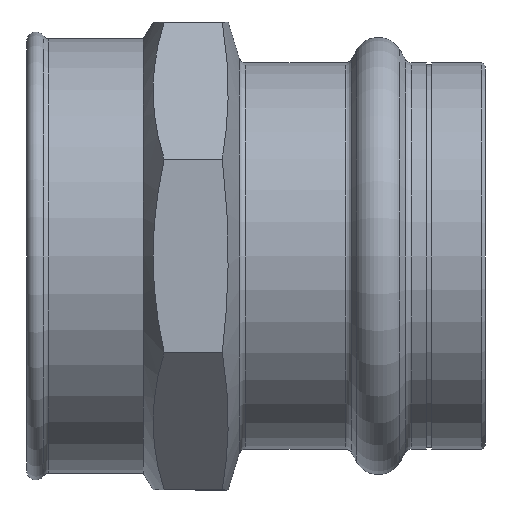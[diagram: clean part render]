
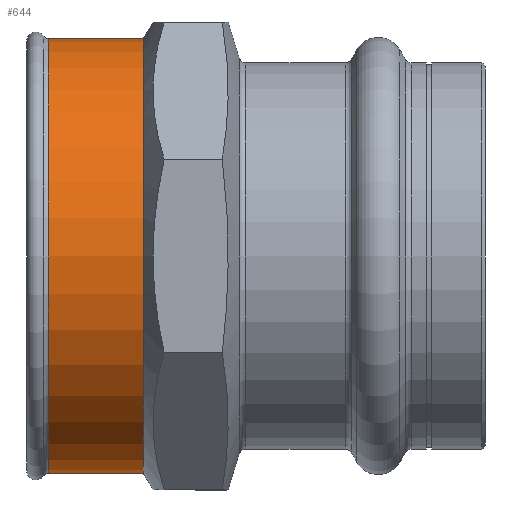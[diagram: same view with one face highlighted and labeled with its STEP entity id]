
A CAD part, left-side view. The second image highlights one B-rep face of the part: STEP entity #644.
In plain terms, the highlighted cylindrical face has radius 32.5 mm (diameter 65 mm), a partial arc.
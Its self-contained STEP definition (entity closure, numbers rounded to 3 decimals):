
#96 = VECTOR ( 'NONE', #655, 1000. ) ;
#262 = VERTEX_POINT ( 'NONE', #1376 ) ;
#329 = EDGE_CURVE ( 'NONE', #1226, #749, #1087, .T. ) ;
#449 = ORIENTED_EDGE ( 'NONE', *, *, #683, .T. ) ;
#455 = CARTESIAN_POINT ( 'NONE',  ( 0., 65.356, -32.5 ) ) ;
#494 = EDGE_LOOP ( 'NONE', ( #1357, #1466, #449, #1898 ) ) ;
#509 = EDGE_CURVE ( 'NONE', #1226, #262, #1191, .T. ) ;
#644 = ADVANCED_FACE ( 'NONE', ( #1480 ), #1435, .T. ) ;
#655 = DIRECTION ( 'NONE',  ( 0., -1., 0. ) ) ;
#667 = CARTESIAN_POINT ( 'NONE',  ( 0., -17.811, -32.5 ) ) ;
#683 = EDGE_CURVE ( 'NONE', #749, #1696, #1381, .T. ) ;
#706 = CARTESIAN_POINT ( 'NONE',  ( 0., -17.811, 32.5 ) ) ;
#749 = VERTEX_POINT ( 'NONE', #455 ) ;
#791 = AXIS2_PLACEMENT_3D ( 'NONE', #1132, #849, #836 ) ;
#836 = DIRECTION ( 'NONE',  ( 0., 0., -1. ) ) ;
#849 = DIRECTION ( 'NONE',  ( 0., -1., 0. ) ) ;
#1059 = DIRECTION ( 'NONE',  ( 0., -1., 0. ) ) ;
#1087 = CIRCLE ( 'NONE', #1920, 32.5 ) ;
#1132 = CARTESIAN_POINT ( 'NONE',  ( 0., -17.811, 0. ) ) ;
#1191 = LINE ( 'NONE', #706, #1893 ) ;
#1204 = CARTESIAN_POINT ( 'NONE',  ( 0., 51.146, -32.5 ) ) ;
#1226 = VERTEX_POINT ( 'NONE', #1354 ) ;
#1288 = AXIS2_PLACEMENT_3D ( 'NONE', #1473, #1460, #1499 ) ;
#1354 = CARTESIAN_POINT ( 'NONE',  ( 0., 65.356, 32.5 ) ) ;
#1357 = ORIENTED_EDGE ( 'NONE', *, *, #509, .F. ) ;
#1376 = CARTESIAN_POINT ( 'NONE',  ( 0., 51.146, 32.5 ) ) ;
#1381 = LINE ( 'NONE', #667, #96 ) ;
#1396 = CARTESIAN_POINT ( 'NONE',  ( 0., 65.356, 0. ) ) ;
#1427 = DIRECTION ( 'NONE',  ( 0., -1., 0. ) ) ;
#1435 = CYLINDRICAL_SURFACE ( 'NONE', #791, 32.5 ) ;
#1460 = DIRECTION ( 'NONE',  ( 0., -1., 0. ) ) ;
#1466 = ORIENTED_EDGE ( 'NONE', *, *, #329, .T. ) ;
#1473 = CARTESIAN_POINT ( 'NONE',  ( 0., 51.146, 0. ) ) ;
#1480 = FACE_OUTER_BOUND ( 'NONE', #494, .T. ) ;
#1499 = DIRECTION ( 'NONE',  ( 0., 0., -1. ) ) ;
#1696 = VERTEX_POINT ( 'NONE', #1204 ) ;
#1702 = EDGE_CURVE ( 'NONE', #262, #1696, #1727, .T. ) ;
#1724 = DIRECTION ( 'NONE',  ( 0., 0., -1. ) ) ;
#1727 = CIRCLE ( 'NONE', #1288, 32.5 ) ;
#1893 = VECTOR ( 'NONE', #1059, 1000. ) ;
#1898 = ORIENTED_EDGE ( 'NONE', *, *, #1702, .F. ) ;
#1920 = AXIS2_PLACEMENT_3D ( 'NONE', #1396, #1427, #1724 ) ;
